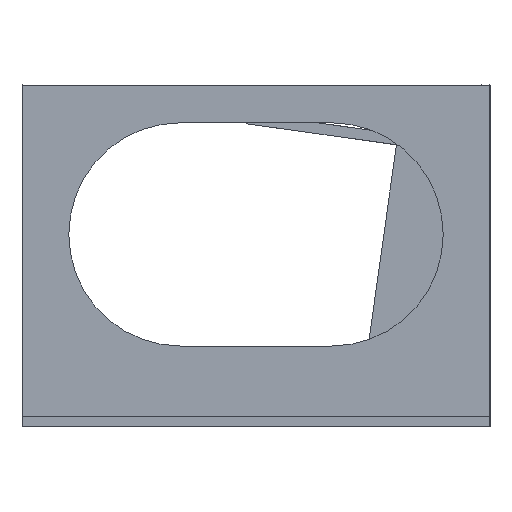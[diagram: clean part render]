
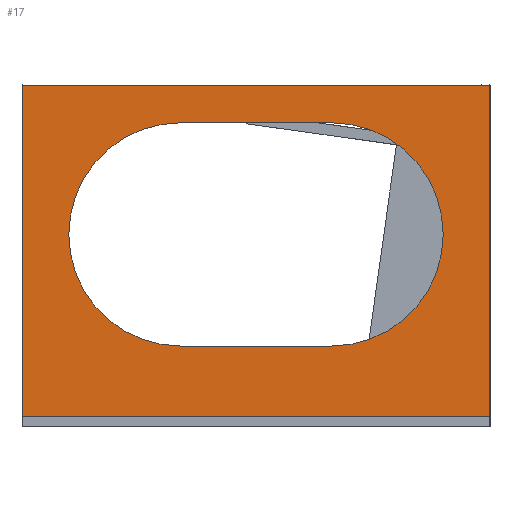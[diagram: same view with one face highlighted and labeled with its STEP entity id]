
A CAD part, left-side view. The second image highlights one B-rep face of the part: STEP entity #17.
In plain terms, the highlighted planar face has unit normal (-1, 0, 0).
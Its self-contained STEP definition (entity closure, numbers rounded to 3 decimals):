
#17 = ADVANCED_FACE('',(#18,#135),#32,.F.);
#18 = FACE_BOUND('',#19,.F.);
#19 = EDGE_LOOP('',(#20,#55,#81,#109));
#20 = ORIENTED_EDGE('',*,*,#21,.F.);
#21 = EDGE_CURVE('',#22,#24,#26,.T.);
#22 = VERTEX_POINT('',#23);
#23 = CARTESIAN_POINT('',(-107.,-65.,3.));
#24 = VERTEX_POINT('',#25);
#25 = CARTESIAN_POINT('',(-107.,-65.,95.));
#26 = SURFACE_CURVE('',#27,(#31,#43),.PCURVE_S1.);
#27 = LINE('',#28,#29);
#28 = CARTESIAN_POINT('',(-107.,-65.,0.));
#29 = VECTOR('',#30,1.);
#30 = DIRECTION('',(0.,0.,1.));
#31 = PCURVE('',#32,#37);
#32 = PLANE('',#33);
#33 = AXIS2_PLACEMENT_3D('',#34,#35,#36);
#34 = CARTESIAN_POINT('',(-107.,-65.,0.));
#35 = DIRECTION('',(1.,0.,0.));
#36 = DIRECTION('',(0.,0.,1.));
#37 = DEFINITIONAL_REPRESENTATION('',(#38),#42);
#38 = LINE('',#39,#40);
#39 = CARTESIAN_POINT('',(0.,0.));
#40 = VECTOR('',#41,1.);
#41 = DIRECTION('',(1.,0.));
#42 = ( GEOMETRIC_REPRESENTATION_CONTEXT(2) 
PARAMETRIC_REPRESENTATION_CONTEXT() REPRESENTATION_CONTEXT('2D SPACE',''
  ) );
#43 = PCURVE('',#44,#49);
#44 = PLANE('',#45);
#45 = AXIS2_PLACEMENT_3D('',#46,#47,#48);
#46 = CARTESIAN_POINT('',(-107.,-65.,0.));
#47 = DIRECTION('',(0.,1.,0.));
#48 = DIRECTION('',(0.,0.,1.));
#49 = DEFINITIONAL_REPRESENTATION('',(#50),#54);
#50 = LINE('',#51,#52);
#51 = CARTESIAN_POINT('',(0.,0.));
#52 = VECTOR('',#53,1.);
#53 = DIRECTION('',(1.,0.));
#54 = ( GEOMETRIC_REPRESENTATION_CONTEXT(2) 
PARAMETRIC_REPRESENTATION_CONTEXT() REPRESENTATION_CONTEXT('2D SPACE',''
  ) );
#55 = ORIENTED_EDGE('',*,*,#56,.F.);
#56 = EDGE_CURVE('',#57,#22,#59,.T.);
#57 = VERTEX_POINT('',#58);
#58 = CARTESIAN_POINT('',(-107.,65.,3.));
#59 = SURFACE_CURVE('',#60,(#64,#70),.PCURVE_S1.);
#60 = LINE('',#61,#62);
#61 = CARTESIAN_POINT('',(-107.,-65.5,3.));
#62 = VECTOR('',#63,1.);
#63 = DIRECTION('',(0.,-1.,0.));
#64 = PCURVE('',#32,#65);
#65 = DEFINITIONAL_REPRESENTATION('',(#66),#69);
#66 = B_SPLINE_CURVE_WITH_KNOTS('',1,(#67,#68),.UNSPECIFIED.,.F.,.F.,(2,
    2),(-130.5,-0.5),.PIECEWISE_BEZIER_KNOTS.);
#67 = CARTESIAN_POINT('',(3.,-130.));
#68 = CARTESIAN_POINT('',(3.,0.));
#69 = ( GEOMETRIC_REPRESENTATION_CONTEXT(2) 
PARAMETRIC_REPRESENTATION_CONTEXT() REPRESENTATION_CONTEXT('2D SPACE',''
  ) );
#70 = PCURVE('',#71,#76);
#71 = PLANE('',#72);
#72 = AXIS2_PLACEMENT_3D('',#73,#74,#75);
#73 = CARTESIAN_POINT('',(-108.,-66.,3.));
#74 = DIRECTION('',(0.,0.,1.));
#75 = DIRECTION('',(1.,0.,0.));
#76 = DEFINITIONAL_REPRESENTATION('',(#77),#80);
#77 = B_SPLINE_CURVE_WITH_KNOTS('',1,(#78,#79),.UNSPECIFIED.,.F.,.F.,(2,
    2),(-130.5,-0.5),.PIECEWISE_BEZIER_KNOTS.);
#78 = CARTESIAN_POINT('',(1.,131.));
#79 = CARTESIAN_POINT('',(1.,1.));
#80 = ( GEOMETRIC_REPRESENTATION_CONTEXT(2) 
PARAMETRIC_REPRESENTATION_CONTEXT() REPRESENTATION_CONTEXT('2D SPACE',''
  ) );
#81 = ORIENTED_EDGE('',*,*,#82,.F.);
#82 = EDGE_CURVE('',#83,#57,#85,.T.);
#83 = VERTEX_POINT('',#84);
#84 = CARTESIAN_POINT('',(-107.,65.,95.));
#85 = SURFACE_CURVE('',#86,(#90,#97),.PCURVE_S1.);
#86 = LINE('',#87,#88);
#87 = CARTESIAN_POINT('',(-107.,65.,95.));
#88 = VECTOR('',#89,1.);
#89 = DIRECTION('',(0.,0.,-1.));
#90 = PCURVE('',#32,#91);
#91 = DEFINITIONAL_REPRESENTATION('',(#92),#96);
#92 = LINE('',#93,#94);
#93 = CARTESIAN_POINT('',(95.,-130.));
#94 = VECTOR('',#95,1.);
#95 = DIRECTION('',(-1.,0.));
#96 = ( GEOMETRIC_REPRESENTATION_CONTEXT(2) 
PARAMETRIC_REPRESENTATION_CONTEXT() REPRESENTATION_CONTEXT('2D SPACE',''
  ) );
#97 = PCURVE('',#98,#103);
#98 = PLANE('',#99);
#99 = AXIS2_PLACEMENT_3D('',#100,#101,#102);
#100 = CARTESIAN_POINT('',(-107.,65.,0.));
#101 = DIRECTION('',(0.,1.,0.));
#102 = DIRECTION('',(0.,0.,1.));
#103 = DEFINITIONAL_REPRESENTATION('',(#104),#108);
#104 = LINE('',#105,#106);
#105 = CARTESIAN_POINT('',(95.,0.));
#106 = VECTOR('',#107,1.);
#107 = DIRECTION('',(-1.,0.));
#108 = ( GEOMETRIC_REPRESENTATION_CONTEXT(2) 
PARAMETRIC_REPRESENTATION_CONTEXT() REPRESENTATION_CONTEXT('2D SPACE',''
  ) );
#109 = ORIENTED_EDGE('',*,*,#110,.F.);
#110 = EDGE_CURVE('',#24,#83,#111,.T.);
#111 = SURFACE_CURVE('',#112,(#116,#123),.PCURVE_S1.);
#112 = LINE('',#113,#114);
#113 = CARTESIAN_POINT('',(-107.,-65.,95.));
#114 = VECTOR('',#115,1.);
#115 = DIRECTION('',(0.,1.,0.));
#116 = PCURVE('',#32,#117);
#117 = DEFINITIONAL_REPRESENTATION('',(#118),#122);
#118 = LINE('',#119,#120);
#119 = CARTESIAN_POINT('',(95.,0.));
#120 = VECTOR('',#121,1.);
#121 = DIRECTION('',(0.,-1.));
#122 = ( GEOMETRIC_REPRESENTATION_CONTEXT(2) 
PARAMETRIC_REPRESENTATION_CONTEXT() REPRESENTATION_CONTEXT('2D SPACE',''
  ) );
#123 = PCURVE('',#124,#129);
#124 = PLANE('',#125);
#125 = AXIS2_PLACEMENT_3D('',#126,#127,#128);
#126 = CARTESIAN_POINT('',(-107.,-65.,95.));
#127 = DIRECTION('',(0.,0.,1.));
#128 = DIRECTION('',(1.,0.,0.));
#129 = DEFINITIONAL_REPRESENTATION('',(#130),#134);
#130 = LINE('',#131,#132);
#131 = CARTESIAN_POINT('',(0.,0.));
#132 = VECTOR('',#133,1.);
#133 = DIRECTION('',(0.,1.));
#134 = ( GEOMETRIC_REPRESENTATION_CONTEXT(2) 
PARAMETRIC_REPRESENTATION_CONTEXT() REPRESENTATION_CONTEXT('2D SPACE',''
  ) );
#135 = FACE_BOUND('',#136,.F.);
#136 = EDGE_LOOP('',(#137,#165,#198,#224));
#137 = ORIENTED_EDGE('',*,*,#138,.F.);
#138 = EDGE_CURVE('',#139,#141,#143,.T.);
#139 = VERTEX_POINT('',#140);
#140 = CARTESIAN_POINT('',(-107.,21.,84.5));
#141 = VERTEX_POINT('',#142);
#142 = CARTESIAN_POINT('',(-107.,-21.,84.5));
#143 = SURFACE_CURVE('',#144,(#148,#154),.PCURVE_S1.);
#144 = LINE('',#145,#146);
#145 = CARTESIAN_POINT('',(-107.,-43.,84.5));
#146 = VECTOR('',#147,1.);
#147 = DIRECTION('',(0.,-1.,0.));
#148 = PCURVE('',#32,#149);
#149 = DEFINITIONAL_REPRESENTATION('',(#150),#153);
#150 = B_SPLINE_CURVE_WITH_KNOTS('',1,(#151,#152),.UNSPECIFIED.,.F.,.F.,
  (2,2),(-64.,-22.),.PIECEWISE_BEZIER_KNOTS.);
#151 = CARTESIAN_POINT('',(84.5,-86.));
#152 = CARTESIAN_POINT('',(84.5,-44.));
#153 = ( GEOMETRIC_REPRESENTATION_CONTEXT(2) 
PARAMETRIC_REPRESENTATION_CONTEXT() REPRESENTATION_CONTEXT('2D SPACE',''
  ) );
#154 = PCURVE('',#155,#160);
#155 = PLANE('',#156);
#156 = AXIS2_PLACEMENT_3D('',#157,#158,#159);
#157 = CARTESIAN_POINT('',(-108.,-21.,84.5));
#158 = DIRECTION('',(0.,0.,1.));
#159 = DIRECTION('',(0.,1.,0.));
#160 = DEFINITIONAL_REPRESENTATION('',(#161),#164);
#161 = B_SPLINE_CURVE_WITH_KNOTS('',1,(#162,#163),.UNSPECIFIED.,.F.,.F.,
  (2,2),(-64.,-22.),.PIECEWISE_BEZIER_KNOTS.);
#162 = CARTESIAN_POINT('',(42.,-1.));
#163 = CARTESIAN_POINT('',(0.,-1.));
#164 = ( GEOMETRIC_REPRESENTATION_CONTEXT(2) 
PARAMETRIC_REPRESENTATION_CONTEXT() REPRESENTATION_CONTEXT('2D SPACE',''
  ) );
#165 = ORIENTED_EDGE('',*,*,#166,.T.);
#166 = EDGE_CURVE('',#139,#167,#169,.T.);
#167 = VERTEX_POINT('',#168);
#168 = CARTESIAN_POINT('',(-107.,21.,22.5));
#169 = SURFACE_CURVE('',#170,(#175,#186),.PCURVE_S1.);
#170 = CIRCLE('',#171,31.);
#171 = AXIS2_PLACEMENT_3D('',#172,#173,#174);
#172 = CARTESIAN_POINT('',(-107.,21.,53.5));
#173 = DIRECTION('',(-1.,0.,0.));
#174 = DIRECTION('',(0.,0.,1.));
#175 = PCURVE('',#32,#176);
#176 = DEFINITIONAL_REPRESENTATION('',(#177),#185);
#177 = ( BOUNDED_CURVE() B_SPLINE_CURVE(2,(#178,#179,#180,#181,#182,#183
,#184),.UNSPECIFIED.,.T.,.F.) B_SPLINE_CURVE_WITH_KNOTS((1,2,2,2,2,1),(
    -2.094,0.,2.094,4.189,6.283,
8.378),.UNSPECIFIED.) CURVE() GEOMETRIC_REPRESENTATION_ITEM() 
RATIONAL_B_SPLINE_CURVE((1.,0.5,1.,0.5,1.,0.5,1.)) REPRESENTATION_ITEM(
  '') );
#178 = CARTESIAN_POINT('',(84.5,-86.));
#179 = CARTESIAN_POINT('',(84.5,-139.694));
#180 = CARTESIAN_POINT('',(38.,-112.847));
#181 = CARTESIAN_POINT('',(-8.5,-86.));
#182 = CARTESIAN_POINT('',(38.,-59.153));
#183 = CARTESIAN_POINT('',(84.5,-32.306));
#184 = CARTESIAN_POINT('',(84.5,-86.));
#185 = ( GEOMETRIC_REPRESENTATION_CONTEXT(2) 
PARAMETRIC_REPRESENTATION_CONTEXT() REPRESENTATION_CONTEXT('2D SPACE',''
  ) );
#186 = PCURVE('',#187,#192);
#187 = CYLINDRICAL_SURFACE('',#188,31.);
#188 = AXIS2_PLACEMENT_3D('',#189,#190,#191);
#189 = CARTESIAN_POINT('',(-108.,21.,53.5));
#190 = DIRECTION('',(-1.,0.,0.));
#191 = DIRECTION('',(0.,0.,1.));
#192 = DEFINITIONAL_REPRESENTATION('',(#193),#197);
#193 = LINE('',#194,#195);
#194 = CARTESIAN_POINT('',(0.,-1.));
#195 = VECTOR('',#196,1.);
#196 = DIRECTION('',(1.,0.));
#197 = ( GEOMETRIC_REPRESENTATION_CONTEXT(2) 
PARAMETRIC_REPRESENTATION_CONTEXT() REPRESENTATION_CONTEXT('2D SPACE',''
  ) );
#198 = ORIENTED_EDGE('',*,*,#199,.F.);
#199 = EDGE_CURVE('',#200,#167,#202,.T.);
#200 = VERTEX_POINT('',#201);
#201 = CARTESIAN_POINT('',(-107.,-21.,22.5));
#202 = SURFACE_CURVE('',#203,(#207,#213),.PCURVE_S1.);
#203 = LINE('',#204,#205);
#204 = CARTESIAN_POINT('',(-107.,-22.,22.5));
#205 = VECTOR('',#206,1.);
#206 = DIRECTION('',(-0.,1.,0.));
#207 = PCURVE('',#32,#208);
#208 = DEFINITIONAL_REPRESENTATION('',(#209),#212);
#209 = B_SPLINE_CURVE_WITH_KNOTS('',1,(#210,#211),.UNSPECIFIED.,.F.,.F.,
  (2,2),(1.,43.),.PIECEWISE_BEZIER_KNOTS.);
#210 = CARTESIAN_POINT('',(22.5,-44.));
#211 = CARTESIAN_POINT('',(22.5,-86.));
#212 = ( GEOMETRIC_REPRESENTATION_CONTEXT(2) 
PARAMETRIC_REPRESENTATION_CONTEXT() REPRESENTATION_CONTEXT('2D SPACE',''
  ) );
#213 = PCURVE('',#214,#219);
#214 = PLANE('',#215);
#215 = AXIS2_PLACEMENT_3D('',#216,#217,#218);
#216 = CARTESIAN_POINT('',(-108.,21.,22.5));
#217 = DIRECTION('',(0.,0.,-1.));
#218 = DIRECTION('',(0.,-1.,0.));
#219 = DEFINITIONAL_REPRESENTATION('',(#220),#223);
#220 = B_SPLINE_CURVE_WITH_KNOTS('',1,(#221,#222),.UNSPECIFIED.,.F.,.F.,
  (2,2),(1.,43.),.PIECEWISE_BEZIER_KNOTS.);
#221 = CARTESIAN_POINT('',(42.,-1.));
#222 = CARTESIAN_POINT('',(0.,-1.));
#223 = ( GEOMETRIC_REPRESENTATION_CONTEXT(2) 
PARAMETRIC_REPRESENTATION_CONTEXT() REPRESENTATION_CONTEXT('2D SPACE',''
  ) );
#224 = ORIENTED_EDGE('',*,*,#225,.T.);
#225 = EDGE_CURVE('',#200,#141,#226,.T.);
#226 = SURFACE_CURVE('',#227,(#232,#243),.PCURVE_S1.);
#227 = CIRCLE('',#228,31.);
#228 = AXIS2_PLACEMENT_3D('',#229,#230,#231);
#229 = CARTESIAN_POINT('',(-107.,-21.,53.5));
#230 = DIRECTION('',(-1.,-0.,0.));
#231 = DIRECTION('',(0.,0.,-1.));
#232 = PCURVE('',#32,#233);
#233 = DEFINITIONAL_REPRESENTATION('',(#234),#242);
#234 = ( BOUNDED_CURVE() B_SPLINE_CURVE(2,(#235,#236,#237,#238,#239,#240
,#241),.UNSPECIFIED.,.T.,.F.) B_SPLINE_CURVE_WITH_KNOTS((1,2,2,2,2,1),(
    -2.094,0.,2.094,4.189,6.283,
8.378),.UNSPECIFIED.) CURVE() GEOMETRIC_REPRESENTATION_ITEM() 
RATIONAL_B_SPLINE_CURVE((1.,0.5,1.,0.5,1.,0.5,1.)) REPRESENTATION_ITEM(
  '') );
#235 = CARTESIAN_POINT('',(22.5,-44.));
#236 = CARTESIAN_POINT('',(22.5,9.694));
#237 = CARTESIAN_POINT('',(69.,-17.153));
#238 = CARTESIAN_POINT('',(115.5,-44.));
#239 = CARTESIAN_POINT('',(69.,-70.847));
#240 = CARTESIAN_POINT('',(22.5,-97.694));
#241 = CARTESIAN_POINT('',(22.5,-44.));
#242 = ( GEOMETRIC_REPRESENTATION_CONTEXT(2) 
PARAMETRIC_REPRESENTATION_CONTEXT() REPRESENTATION_CONTEXT('2D SPACE',''
  ) );
#243 = PCURVE('',#244,#249);
#244 = CYLINDRICAL_SURFACE('',#245,31.);
#245 = AXIS2_PLACEMENT_3D('',#246,#247,#248);
#246 = CARTESIAN_POINT('',(-108.,-21.,53.5));
#247 = DIRECTION('',(-1.,-0.,0.));
#248 = DIRECTION('',(0.,0.,-1.));
#249 = DEFINITIONAL_REPRESENTATION('',(#250),#254);
#250 = LINE('',#251,#252);
#251 = CARTESIAN_POINT('',(0.,-1.));
#252 = VECTOR('',#253,1.);
#253 = DIRECTION('',(1.,0.));
#254 = ( GEOMETRIC_REPRESENTATION_CONTEXT(2) 
PARAMETRIC_REPRESENTATION_CONTEXT() REPRESENTATION_CONTEXT('2D SPACE',''
  ) );
